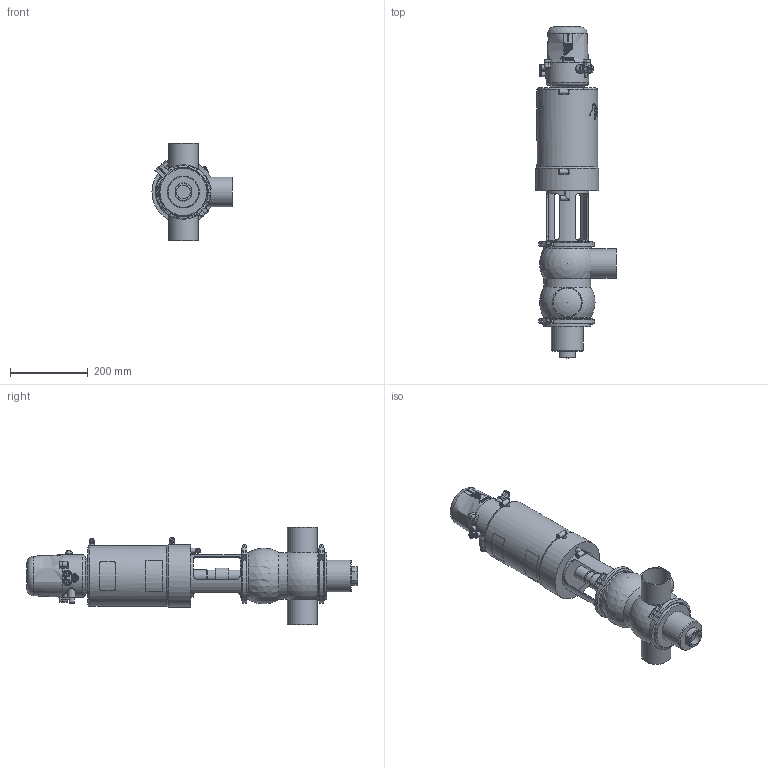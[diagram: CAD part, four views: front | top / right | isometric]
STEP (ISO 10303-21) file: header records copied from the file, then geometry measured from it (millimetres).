
FILE_DESCRIPTION (( 'STEP AP214' ), '1' );
FILE_NAME ('INNOVA P BB-90 W OD 3 & C-TOP S_10.250.16.0013.STEP', '2024-08-09T11:58:49', ( '' ), ( '' ), 'SwSTEP 2.0', 'SolidWorks 2023', '' );
FILE_SCHEMA (( 'AUTOMOTIVE_DESIGN' ));
Length unit declared in the file: millimetre
Products named in the file (7): INNOVA P BB-90 W OD 3 & C-TOP S_10.250.16.0013; 10.250.15.0003_DN 3"; 10.250.15.0002_Type P T2; 10.250.15.0001_OD 3"; 10.240.15.0001_DN 080; 10.426.15.0001_C-TOP S - 3 EV; 10.251.15.0005_OD 3"
Assembly tree (7 placements, depth 2):
  INNOVA P BB-90 W OD 3 & C-TOP S_10.250.16.0013
    10.250.15.0001_OD 3"
    10.250.15.0002_Type P T2
    10.426.15.0001_C-TOP S - 3 EV
    10.251.15.0005_OD 3"
    10.240.15.0001_DN 080  x2
    10.250.15.0003_DN 3"
Bounding box: 205.5 x 851.6 x 250 mm (x, y, z)
Volume: 10268895 mm3; surface area: 651787.8 mm2
Topology: 7 solids, 7 shells, 1206 faces, 2900 edges, 1928 vertices
Faces by surface type: plane 413, cylinder 385, cone 204, bspline 162, torus 33, sphere 9
Full cylindrical faces by diameter (mm): 0.371 x17, 0.512 x16, 0.658 x16, 0.795 x16, 0.94 x15, 1.098 x15, 1.241 x13, 1.382 x13, 1.523 x11, 1.669 x10, 2.201 x1, 4.2 x2, 5 x1, 5.5 x2, 6 x4, 6.15 x3, 8 x5, 10 x1, 10.5 x3, 11 x4, 12.5 x9, 13 x6, 13.5 x2, 17 x3, 20 x2, 22 x2, 30.5 x2, 32 x1, 35 x1, 41 x1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
Entity records: 60065 total; most frequent: CARTESIAN_POINT 28664, ORIENTED_EDGE 4604, DIRECTION 3761, EDGE_CURVE 2302, VERTEX_POINT 1644, EDGE_LOOP 1632, AXIS2_PLACEMENT_3D 1550, FACE_OUTER_BOUND 1377
